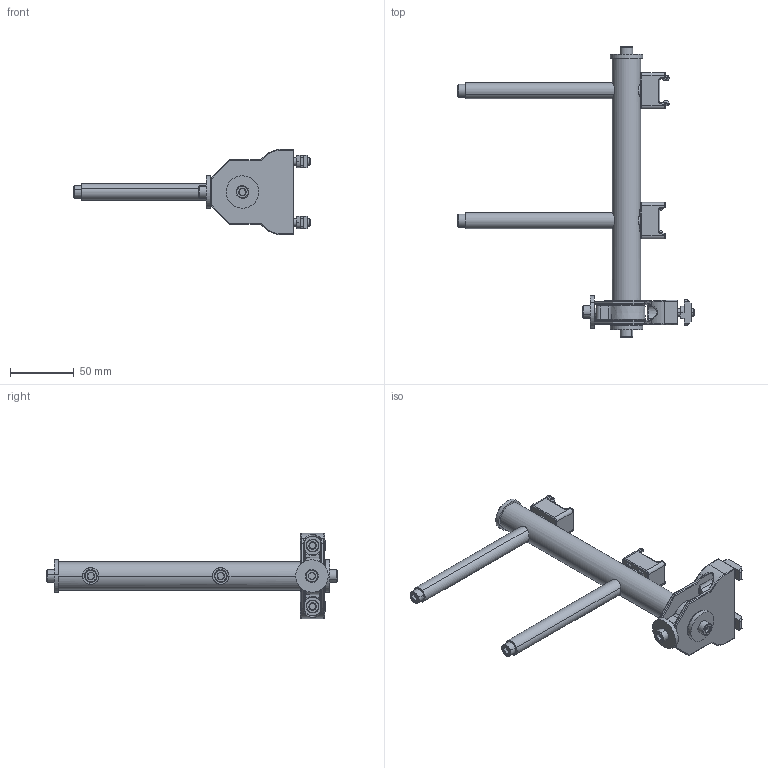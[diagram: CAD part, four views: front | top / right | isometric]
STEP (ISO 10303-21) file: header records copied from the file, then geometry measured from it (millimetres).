
FILE_DESCRIPTION((''),'2;1');
FILE_NAME('206186-04_ASM','2017-07-06T',('jenni.wallner'),(''),'PRO/ENGINEER BY PARAMETRIC TECHNOLOGY CORPORATION, 2012420','PRO/ENGINEER BY PARAMETRIC TECHNOLOGY CORPORATION, 2012420','');
FILE_SCHEMA(('CONFIG_CONTROL_DESIGN'));
Length unit declared in the file: inch
Products named in the file (17): 206380; 807-920; 990601M; 911-710_911-710; 206692; 206382_206382_DRAFTS; 206189-HH_206189-04; 9206XXM_9206150M; 807-2859_91760A321; 206685; 9206XXM_920616M; 9206XXM_920675M; 206383_206383; 206397_206397; 206381_206381; ASM0002_ASM; 206186-04_ASM
Assembly tree (29 placements, depth 3):
  206186-04_ASM
    ASM0002_ASM
      206380
      807-920  x3
      990601M  x2
      911-710_911-710  x3
      206692  x2
      206382_206382_DRAFTS  x2
      206189-HH_206189-04
      9206XXM_9206150M  x2
      807-2859_91760A321  x2
      206685  x2
      9206XXM_920616M  x2
      9206XXM_920675M
      206383_206383  x2
      206397_206397  x2
      206381_206381
Bounding box: 184.72 x 227.72 x 66.8 mm (x, y, z)
Volume: 117147.8 mm3; surface area: 100360.1 mm2
Topology: 28 solids, 28 shells, 1204 faces, 2838 edges, 1634 vertices
Faces by surface type: cylinder 395, plane 323, cone 192, bspline 148, torus 114, sphere 32
Entity records: 32501 total; most frequent: CARTESIAN_POINT 15702, ORIENTED_EDGE 3474, DIRECTION 3371, EDGE_CURVE 1737, AXIS2_PLACEMENT_3D 1336, VERTEX_POINT 1020, EDGE_LOOP 783, FACE_OUTER_BOUND 744
